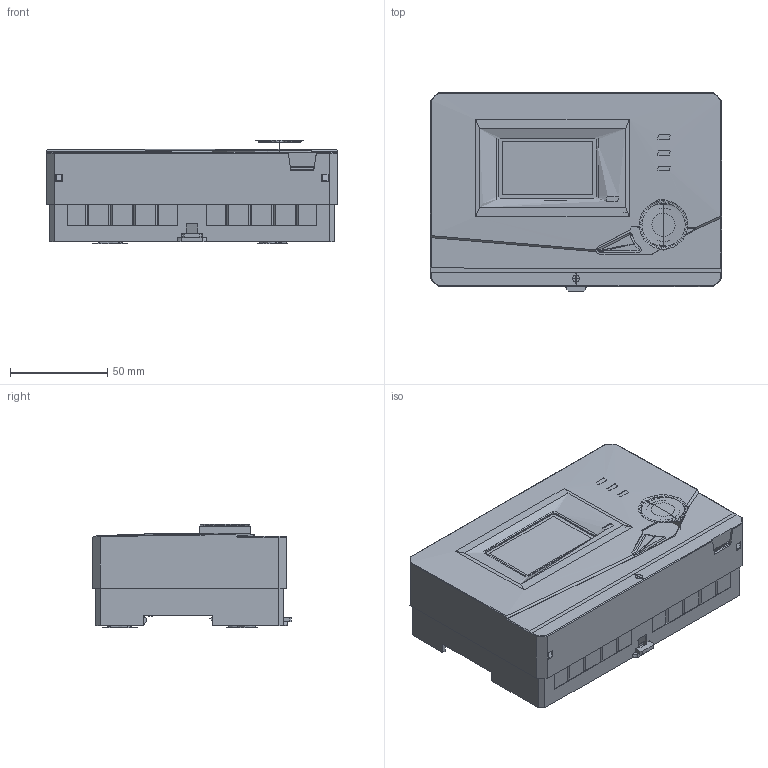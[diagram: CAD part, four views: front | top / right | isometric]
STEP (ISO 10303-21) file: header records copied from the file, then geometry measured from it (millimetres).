
FILE_DESCRIPTION(/* description */ (''),/* implementation_level */ '2;1');
FILE_NAME(/* name */ '3D-DatenUVR65-UVR67',/* time_stamp */ '2020-12-10T10:04:07+01:00',/* author */ (''),/* organization */ (''),/* preprocessor_version */ 'ST-DEVELOPER v15',/* originating_system */ '',/* authorisation */ '');
FILE_SCHEMA (('AUTOMOTIVE_DESIGN'));
Products named in the file (1): Document
Bounding box: 150 x 102.42 x 53.47 mm (x, y, z)
Volume: 84543.1 mm3; surface area: 196819 mm2
Topology: 60 solids, 422 shells, 4182 faces, 11923 edges, 8119 vertices
Faces by surface type: plane 2784, bspline 1398
Entity records: 153589 total; most frequent: CARTESIAN_POINT 76283, ORIENTED_EDGE 22125, EDGE_CURVE 11887, B_SPLINE_CURVE_WITH_KNOTS 8476, VERTEX_POINT 8086, EDGE_LOOP 4523, ADVANCED_FACE 4182, FACE_OUTER_BOUND 4182
